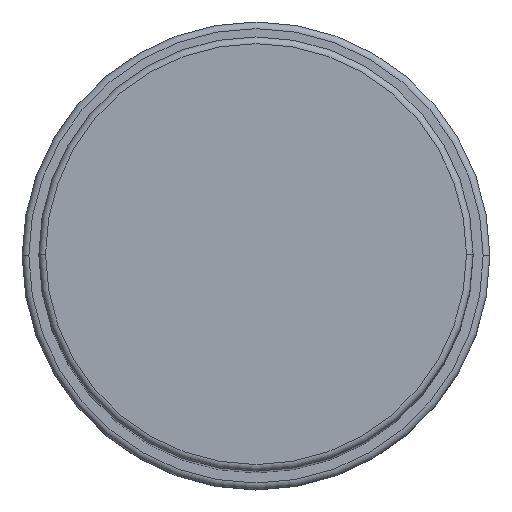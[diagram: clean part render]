
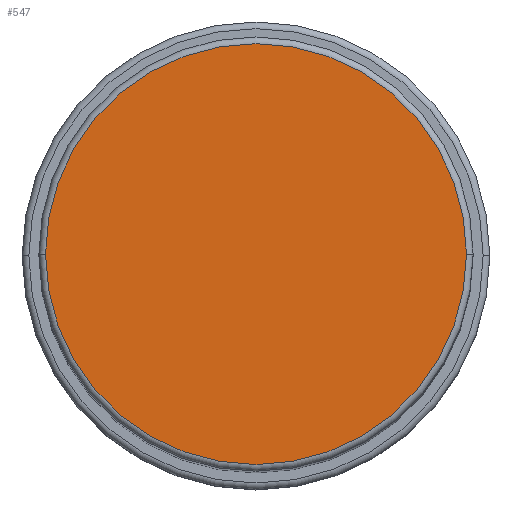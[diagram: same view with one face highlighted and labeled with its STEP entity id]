
A CAD part, top view. The second image highlights one B-rep face of the part: STEP entity #547.
In plain terms, the highlighted planar face has unit normal (0, 0, 1).
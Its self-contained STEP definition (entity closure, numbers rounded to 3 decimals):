
#41 = EDGE_CURVE ( 'NONE', #1594, #1065, #1074, .T. ) ;
#59 = CARTESIAN_POINT ( 'NONE',  ( 31.5, 0., 163. ) ) ;
#128 = AXIS2_PLACEMENT_3D ( 'NONE', #266, #418, #832 ) ;
#266 = CARTESIAN_POINT ( 'NONE',  ( 0., 0., 163. ) ) ;
#316 = DIRECTION ( 'NONE',  ( 0., 0., 1. ) ) ;
#418 = DIRECTION ( 'NONE',  ( 0., 0., 1. ) ) ;
#512 = ORIENTED_EDGE ( 'NONE', *, *, #41, .T. ) ;
#547 = ADVANCED_FACE ( 'NONE', ( #1442 ), #1606, .T. ) ;
#556 = CIRCLE ( 'NONE', #1450, 31.5 ) ;
#655 = EDGE_LOOP ( 'NONE', ( #512, #794 ) ) ;
#763 = CARTESIAN_POINT ( 'NONE',  ( -31.5, 0., 163. ) ) ;
#787 = DIRECTION ( 'NONE',  ( 1., 0., 0. ) ) ;
#794 = ORIENTED_EDGE ( 'NONE', *, *, #860, .T. ) ;
#832 = DIRECTION ( 'NONE',  ( 1., 0., 0. ) ) ;
#860 = EDGE_CURVE ( 'NONE', #1065, #1594, #556, .T. ) ;
#884 = AXIS2_PLACEMENT_3D ( 'NONE', #1462, #1738, #787 ) ;
#994 = CARTESIAN_POINT ( 'NONE',  ( 0., 0., 163. ) ) ;
#1065 = VERTEX_POINT ( 'NONE', #763 ) ;
#1074 = CIRCLE ( 'NONE', #128, 31.5 ) ;
#1250 = DIRECTION ( 'NONE',  ( 1., 0., 0. ) ) ;
#1442 = FACE_OUTER_BOUND ( 'NONE', #655, .T. ) ;
#1450 = AXIS2_PLACEMENT_3D ( 'NONE', #994, #316, #1250 ) ;
#1462 = CARTESIAN_POINT ( 'NONE',  ( 0., 0., 163. ) ) ;
#1594 = VERTEX_POINT ( 'NONE', #59 ) ;
#1606 = PLANE ( 'NONE',  #884 ) ;
#1738 = DIRECTION ( 'NONE',  ( 0., 0., 1. ) ) ;
